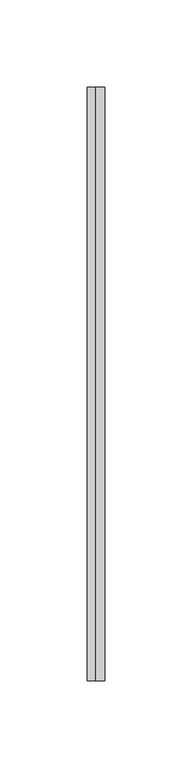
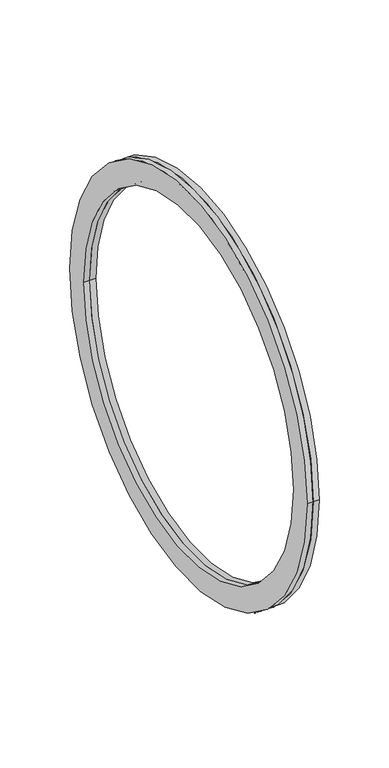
"""IFC4 building model written with IfcOpenShell, lengths in millimetres: duct fitting geometry, BL_ФланецВоздуховдов-Двойной_Круглый_БезКоннекторов : BL_ФланецВоздуховдов-Двойной_Круглый_БезКоннекторов."""

from ifc_helpers import new_model, si_unit, point, frame, frame_2d, origin, place, context, project, spatial, circle_curve, trimmed, segment, composite_curve, outline, extrude, source, transform, mapped, element, save


def duct_fitting_6a6d7aa5(model_context):
    return source(origin(), model_context, "Body", "SweptSolid", [
        extrude(outline(composite_curve([segment(trimmed(circle_curve(frame_2d((45.6742229, 0.0)), 170.0), [point((215.6742229, 0.0))], [point((-124.3257771, 0.0))], False, "CARTESIAN"), True, "CONTINUOUS"), segment(trimmed(circle_curve(frame_2d((45.6742229, 0.0)), 170.0), [point((-124.3257771, 0.0))], [point((215.6742229, 0.0))], False, "CARTESIAN"), True, "CONTINUOUS")], self_intersect=False), holes=[composite_curve([segment(trimmed(circle_curve(frame_2d((45.6742229, 0.0)), 150.0), [point((195.6742229, 0.0))], [point((-104.3257771, 0.0))], True, "CARTESIAN"), True, "CONTINUOUS"), segment(trimmed(circle_curve(frame_2d((45.6742229, 0.0)), 150.0), [point((-104.3257771, 0.0))], [point((195.6742229, 0.0))], True, "CARTESIAN"), True, "CONTINUOUS")], self_intersect=False)]), frame((0.0, 0.0, 0.0), z_axis=(1.0, 0.0, 0.0), x_axis=(0.0, 1.0, 0.0)), (0.0, 0.0, 1.0), 5.0),
        extrude(outline(composite_curve([segment(trimmed(circle_curve(frame_2d((45.6742229, 0.0)), 170.0), [point((215.6742229, 0.0))], [point((-124.3257771, 0.0))], False, "CARTESIAN"), True, "CONTINUOUS"), segment(trimmed(circle_curve(frame_2d((45.6742229, 0.0)), 170.0), [point((-124.3257771, 0.0))], [point((215.6742229, 0.0))], False, "CARTESIAN"), True, "CONTINUOUS")], self_intersect=False), holes=[composite_curve([segment(trimmed(circle_curve(frame_2d((45.6742229, 0.0)), 150.0), [point((195.6742229, 0.0))], [point((-104.3257771, 0.0))], True, "CARTESIAN"), True, "CONTINUOUS"), segment(trimmed(circle_curve(frame_2d((45.6742229, 0.0)), 150.0), [point((-104.3257771, 0.0))], [point((195.6742229, 0.0))], True, "CARTESIAN"), True, "CONTINUOUS")], self_intersect=False)]), frame((-5.0, 0.0, 0.0), z_axis=(1.0, 0.0, 0.0), x_axis=(0.0, 1.0, 0.0)), (0.0, 0.0, 1.0), 5.0),
    ])


if __name__ == "__main__":
    model = new_model("IFC4")
    model_context = context("Model", 3, world=origin())
    ifc_project = project(units=[si_unit("LENGTHUNIT", "METRE", prefix="MILLI")], contexts=[model_context])
    site = spatial("IfcSite", under=ifc_project)
    building = spatial("IfcBuilding", under=site)
    placement = place(None, origin())
    duct_fitting_shape = duct_fitting_6a6d7aa5(model_context)
    element("IfcDuctFitting", 1, ObjectType="BL_ФланецВоздуховдов-Двойной_Круглый_БезКоннекторов : BL_ФланецВоздуховдов-Двойной_Круглый_БезКоннекторов", at=placement, inside=building, context=model_context, shape_type="MappedRepresentation", body=[
        mapped(duct_fitting_shape, transform((0.0, 0.0, 0.0), x_axis=(1.0, 0.0, 0.0), y_axis=(0.0, 1.0, 0.0), z_axis=(0.0, 0.0, 1.0))),
    ])
    save(model, "model.ifc")
